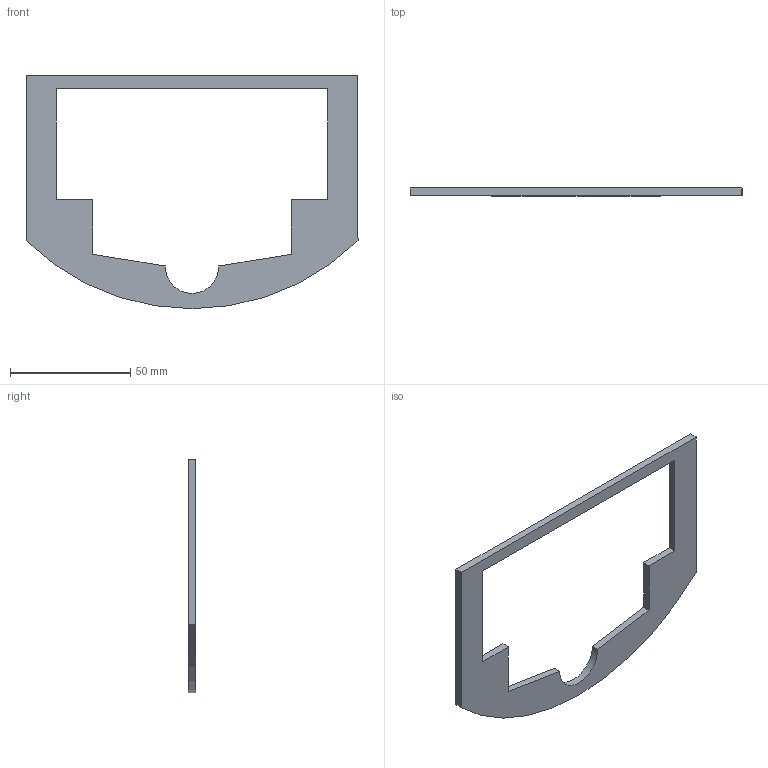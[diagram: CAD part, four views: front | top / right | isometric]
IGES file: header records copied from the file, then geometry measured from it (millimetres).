
Start section: 3D InterOp IGES (Version 21 0 3), Spatial Corp. Copyright (c) 1999-2007.
Global section: file name: CSR ANKLE BRACELET - 20140610.igs; native system: Spatial Corp.; preprocessor: 3D InterOp GENERIC/IGES 3.0; author: Noname; organization: Noname; date: 20140621.121653; units: inch
Bounding box: 137.79 x 3.17 x 96.84 mm (x, y, z)
Surface area: 11795.7 mm2 (no closed solid volume)
Topology: 0 solids, 0 shells, 16 faces, 84 edges, 84 vertices
Faces by surface type: extrusion 14, revolution 2
